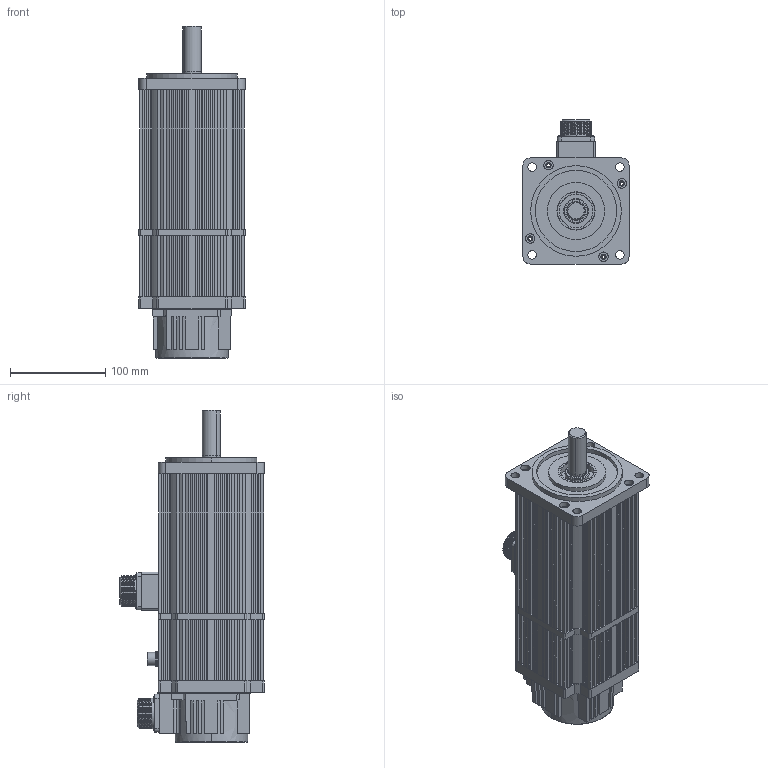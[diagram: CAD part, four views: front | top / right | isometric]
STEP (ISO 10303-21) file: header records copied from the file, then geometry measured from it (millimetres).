
FILE_DESCRIPTION (( 'STEP AP203' ), '1' );
FILE_NAME ('110电磁抱闸6N.M.STEP', '2017-02-22T07:04:36', ( '中国系统网V16.0' ), ( '中国系统网V16.0' ), 'SwSTEP 2.0', 'SolidWorks 2014', '' );
FILE_SCHEMA (( 'CONFIG_CONTROL_DESIGN' ));
Length unit declared in the file: millimetre
Products named in the file (14): 80三芯航插（永磁抱闸）; 110綴傷裔惕掅; 110萇棠惕掅6N.M; 110綴欶; 110綴欶砎蝶菜; 110綴傷裔; 110儂褲(惕掅); 110ヶ傷裔; 110儂褲(6NM); 110蚐猾; 110晤鎢ん脣芛; 110蛌粣; 110瑤船; 粣創6304ㄗ110炵蹈ㄘ
Assembly tree (13 placements, depth 2):
  110萇棠惕掅6N.M
    110儂褲(6NM)
    110晤鎢ん脣芛
    110瑤船
    110綴傷裔
    110綴傷裔惕掅
    110綴欶
    110綴欶砎蝶菜
    110儂褲(惕掅)
    110ヶ傷裔
    110蚐猾
    110蛌粣
    粣創6304ㄗ110炵蹈ㄘ
    80三芯航插（永磁抱闸）
Bounding box: 111.2 x 151.6 x 348 mm (x, y, z)
Volume: 1017257.6 mm3; surface area: 508006.8 mm2
Topology: 16 solids, 16 shells, 1453 faces, 4163 edges, 2737 vertices
Faces by surface type: plane 757, cylinder 531, sphere 81, torus 42, cone 40, bspline 2
Entity records: 52381 total; most frequent: CARTESIAN_POINT 13829, ORIENTED_EDGE 7816, DIRECTION 7671, EDGE_CURVE 3908, AXIS2_PLACEMENT_3D 2630, VERTEX_POINT 2581, VECTOR 2411, LINE 2411
